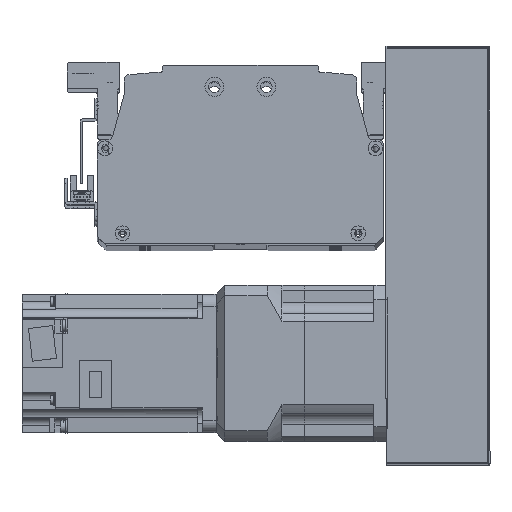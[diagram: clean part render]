
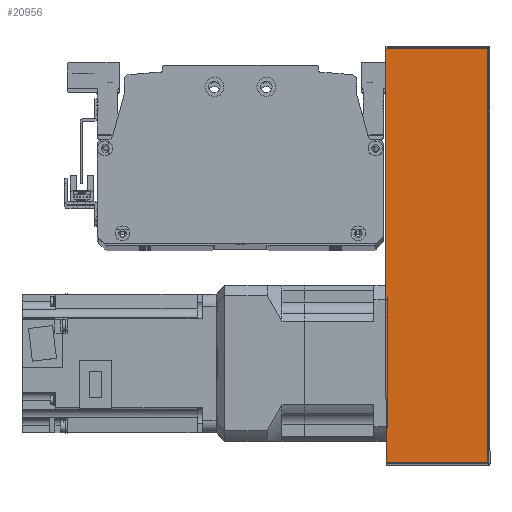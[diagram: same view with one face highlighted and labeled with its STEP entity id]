
A CAD part, top view. The second image highlights one B-rep face of the part: STEP entity #20956.
In plain terms, the highlighted planar face has unit normal (0, 0, 1) as drawn and (0, 1, 0) by its records, which use the part's own axes.
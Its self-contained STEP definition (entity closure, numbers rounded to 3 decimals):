
#566=PLANE('',#22856);
#1697=LINE('',#33353,#3357);
#1716=LINE('',#33437,#3376);
#1718=LINE('',#33447,#3378);
#1719=LINE('',#33449,#3379);
#3357=VECTOR('',#27146,10.);
#3376=VECTOR('',#27259,10.);
#3378=VECTOR('',#27273,10.);
#3379=VECTOR('',#27276,10.);
#5411=FACE_OUTER_BOUND('',#6887,.T.);
#6887=EDGE_LOOP('',(#16448,#16449,#16450,#16451));
#9799=VERTEX_POINT('',#33350);
#9800=VERTEX_POINT('',#33352);
#9817=VERTEX_POINT('',#33431);
#9820=VERTEX_POINT('',#33443);
#12179=EDGE_CURVE('',#9800,#9799,#1697,.T.);
#12222=EDGE_CURVE('',#9817,#9800,#1716,.T.);
#12227=EDGE_CURVE('',#9799,#9820,#1718,.T.);
#12228=EDGE_CURVE('',#9820,#9817,#1719,.T.);
#16448=ORIENTED_EDGE('',*,*,#12222,.T.);
#16449=ORIENTED_EDGE('',*,*,#12179,.T.);
#16450=ORIENTED_EDGE('',*,*,#12227,.T.);
#16451=ORIENTED_EDGE('',*,*,#12228,.T.);
#20956=ADVANCED_FACE('',(#5411),#566,.F.);
#22856=AXIS2_PLACEMENT_3D('',#33456,#27285,#27286);
#27146=DIRECTION('',(-1.,0.,0.));
#27259=DIRECTION('',(0.,0.,-1.));
#27273=DIRECTION('',(0.,0.,1.));
#27276=DIRECTION('',(1.,0.,0.));
#27285=DIRECTION('center_axis',(0.,-1.,0.));
#27286=DIRECTION('ref_axis',(-1.,0.,0.));
#33350=CARTESIAN_POINT('',(-120.,51.,-30.));
#33352=CARTESIAN_POINT('',(120.,51.,-30.));
#33353=CARTESIAN_POINT('',(-121.,51.,-30.));
#33431=CARTESIAN_POINT('',(120.,51.,29.));
#33437=CARTESIAN_POINT('',(120.,51.,0.));
#33443=CARTESIAN_POINT('',(-120.,51.,29.));
#33447=CARTESIAN_POINT('',(-120.,51.,0.));
#33449=CARTESIAN_POINT('',(60.5,51.,29.));
#33456=CARTESIAN_POINT('Origin',(121.,51.,0.));
